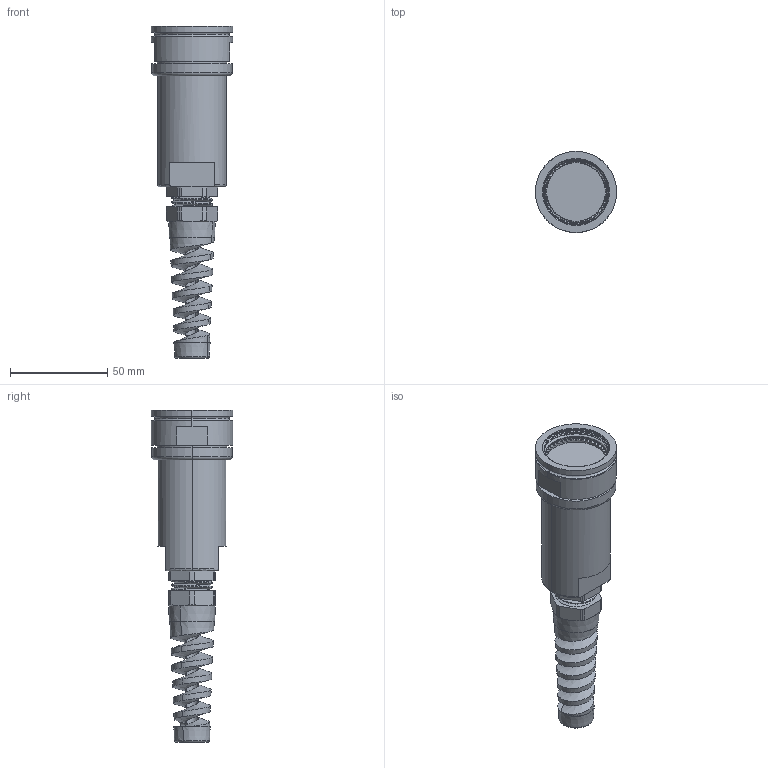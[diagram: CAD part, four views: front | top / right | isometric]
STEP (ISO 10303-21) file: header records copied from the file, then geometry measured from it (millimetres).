
FILE_DESCRIPTION (( 'STEP AP214' ), '1' );
FILE_NAME ('Q38SHELL-STX-23-XXXX-GB.STEP', '2025-09-09T22:22:54', ( '' ), ( '' ), 'SwSTEP 2.0', 'SolidWorks 2024', '' );
FILE_SCHEMA (( 'AUTOMOTIVE_DESIGN' ));
Length unit declared in the file: millimetre
Products named in the file (1): Q38SHELL-STX-23-XXXX-GB
Bounding box: 41.78 x 41.78 x 171.07 mm (x, y, z)
Volume: 103105.7 mm3; surface area: 25493.5 mm2
Topology: 2 solids, 2 shells, 329 faces, 1030 edges, 719 vertices
Faces by surface type: plane 200, cylinder 69, cone 38, torus 15, bspline 7
Entity records: 16616 total; most frequent: CARTESIAN_POINT 8065, ORIENTED_EDGE 2060, DIRECTION 1567, EDGE_CURVE 1030, VERTEX_POINT 719, AXIS2_PLACEMENT_3D 638, EDGE_LOOP 347, ADVANCED_FACE 329
